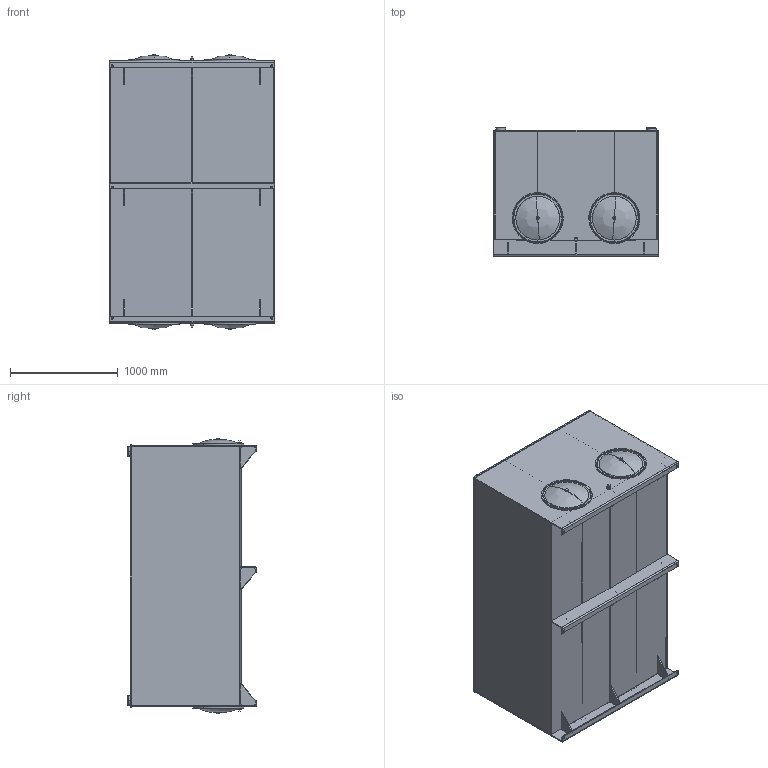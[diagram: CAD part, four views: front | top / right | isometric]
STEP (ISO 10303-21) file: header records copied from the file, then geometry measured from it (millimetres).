
FILE_DESCRIPTION (( 'STEP AP214' ), '1' );
FILE_NAME ('TJ-800.STEP', '2026-04-22T13:49:58', ( '' ), ( '' ), 'SwSTEP 2.0', 'SolidWorks 2026', '' );
FILE_SCHEMA (( 'AUTOMOTIVE_DESIGN' ));
Length unit declared in the file: inch
Products named in the file (19): TJ-800-EA; TJ-800-GST-2; TJ-800-EB; TJ-800-BFL; 18.00 GASKET; FILLER RISER; TJ-800-FS; TJ-800; 0.750 NPT HALF COUPLING 3000#; 0.750 NPT PLUG; TJ-800-GST-1; TJ-800-BDYA; 0.625 - 11 BAFFLE NUT; 0.625 - 11 HEX BOLT; TJ-800-LD; TJ-800-BDYB; TL-EC-18; CRUSH WASHER; 18.00 END COVER
Assembly tree (33 placements, depth 3):
  TJ-800
    TJ-800-BDYB  x2
    TJ-800-BDYA
    TJ-800-EA
    TJ-800-EB
    TJ-800-BFL  x2
    TL-EC-18  x4
      18.00 END COVER
      18.00 GASKET
      CRUSH WASHER
      0.625 - 11 HEX BOLT
      0.625 - 11 BAFFLE NUT
    TJ-800-LD
    TJ-800-FS
    TJ-800-GST-1  x6
    TJ-800-GST-2  x3
    0.750 NPT HALF COUPLING 3000#  x2
    0.750 NPT PLUG  x2
    FILLER RISER  x2
Bounding box: 1524 x 1193.67 x 2560.98 mm (x, y, z)
Volume: 148747596.6 mm3; surface area: 43410936.3 mm2
Topology: 44 solids, 44 shells, 520 faces, 1210 edges, 792 vertices
Faces by surface type: plane 295, cylinder 193, bspline 16, cone 12, torus 4
Entity records: 7940 total; most frequent: DIRECTION 1337, CARTESIAN_POINT 1274, ORIENTED_EDGE 1146, EDGE_CURVE 573, AXIS2_PLACEMENT_3D 493, VERTEX_POINT 370, LINE 351, VECTOR 351
